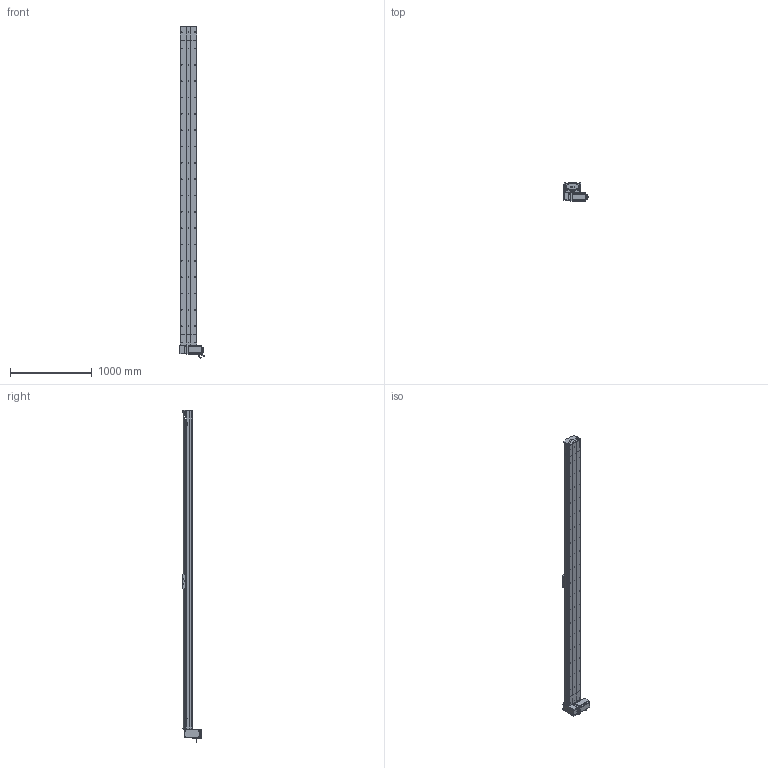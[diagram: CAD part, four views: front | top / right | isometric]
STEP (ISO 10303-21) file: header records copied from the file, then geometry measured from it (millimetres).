
FILE_DESCRIPTION (( 'STEP AP214' ), '1' );
FILE_NAME ('D20 TBH RU S3600.STEP', '2010-07-01T09:03:00', ( 'Conseil Régional Haute-Normandie' ), ( 'Conseil Régional Haute-Normandie' ), 'SwSTEP 2.0', 'SolidWorks 2010', '' );
FILE_SCHEMA (( 'AUTOMOTIVE_DESIGN' ));
Length unit declared in the file: millimetre
Products named in the file (40): chariot D20B_Default; Moteur motionking 110BLDC170A-640x; guide D20B; Chariot D20B; tail D20_Default; vis M5 L70_Default; Plaque racord D20LH_Default; avant 110BLDC170A-630x; Renvoi RU D20_Default; cache D20_Default; cache arbre D20_Default; plaque de  bout head D20B RU_Default; vis M5 L25_Default; vis M5 L5_Default; couroie_Default; poulie head D20_Default; couvercle head D20_Default; rail head D20; corpl head D20_Default; head RU_Default; corpl tail D20_Default; poulie tail D20_Default; tete d''axe poulie D20B; plaque de  bout tail D20_Default; rail tail D20; vis M5 L8 90°_Default; couvercle tail D20_Default; Couroie tail D20_Default; codeur 110BLDC170A-630x; Conecteur2_Default; Conecteur_Default; vis M5 L12_Default; vis M8 L12_Default; clavette; Course B L3600_Default; D20 TBH RU S3600; corps 110BLDC170A-630x; rail + couroie  D20 S3600; couvercle D20 S3600_Default; corp D20 S3600_Default
Assembly tree (71 placements, depth 4):
  D20 TBH RU S3600
    tail D20_Default
      plaque de  bout tail D20_Default
      rail tail D20
      vis M5 L12_Default  x4
      vis M5 L8 90°_Default  x2
      corpl tail D20_Default
      couvercle tail D20_Default
      vis M5 L25_Default  x2
      poulie tail D20_Default
      Couroie tail D20_Default
      tete d''axe poulie D20B
    Course B L3600_Default
      corp D20 S3600_Default
      rail + couroie  D20 S3600
      couvercle D20 S3600_Default
    head RU_Default
      vis M5 L12_Default  x10
      corpl head D20_Default
      cache D20_Default  x2
      vis M8 L12_Default  x4
      vis M5 L25_Default  x2
      poulie head D20_Default
      vis M5 L70_Default  x4
      Moteur motionking 110BLDC170A-640x
        Conecteur_Default
        codeur 110BLDC170A-630x
        Conecteur2_Default
        corps 110BLDC170A-630x
        avant 110BLDC170A-630x
        clavette
      vis M5 L5_Default  x4
      cache arbre D20_Default
      Plaque racord D20LH_Default
      couroie_Default
      rail head D20
      Renvoi RU D20_Default
      plaque de  bout head D20B RU_Default
      couvercle head D20_Default
    chariot D20B_Default
      vis M5 L12_Default  x4
      Chariot D20B
      guide D20B  x2
Bounding box: 304.2 x 223.2 x 4065 mm (x, y, z)
Volume: 31178270.5 mm3; surface area: 7759137.2 mm2
Topology: 95 solids, 95 shells, 2913 faces, 7551 edges, 4885 vertices
Faces by surface type: plane 1650, cylinder 939, bspline 136, cone 99, torus 89
Entity records: 95480 total; most frequent: CARTESIAN_POINT 31313, ORIENTED_EDGE 11758, DIRECTION 11004, EDGE_CURVE 5879, VERTEX_POINT 3871, LINE 3672, VECTOR 3672, AXIS2_PLACEMENT_3D 3666
